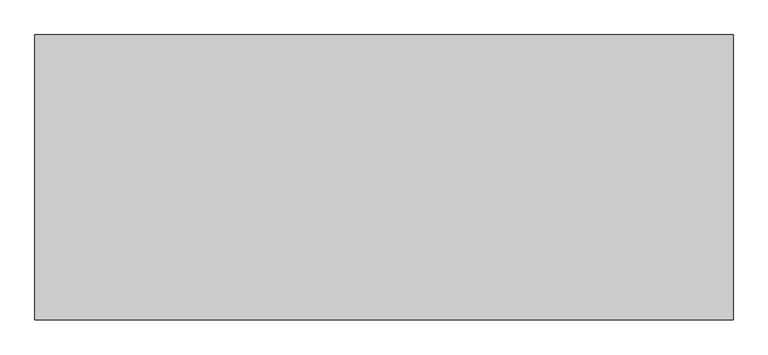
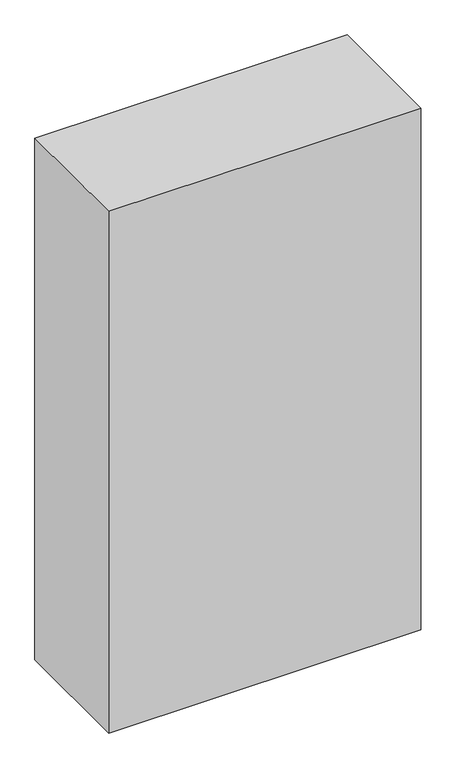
"""IFC4 building model written with IfcOpenShell, lengths in millimetres: proxy geometry."""

from ifc_helpers import new_model, si_unit, frame, origin, place, context, project, spatial, polyline, outline, extrude, source, transform, mapped, element, save


def generic_models_74fafd9d(model_context):
    return source(origin(), model_context, "Body", "SweptSolid", [
        extrude(outline(polyline([(-0.3951687, -335.5), (-1500.3951687, -335.5), (-1500.3951687, 277.5), (-0.3951687, 277.5), (-0.3951687, -335.5)])), frame((0.0, 0.0, -150.0), z_axis=(0.0, 0.0, 1.0), x_axis=(1.0, 0.0, 0.0)), (0.0, 0.0, 1.0), 2650.0),
    ])


if __name__ == "__main__":
    model = new_model("IFC4")
    model_context = context("Model", 3, world=origin())
    ifc_project = project(units=[si_unit("LENGTHUNIT", "METRE", prefix="MILLI")], contexts=[model_context])
    site = spatial("IfcSite", under=ifc_project)
    building = spatial("IfcBuilding", under=site)
    placement = place(None, origin())
    generic_models_shape = generic_models_74fafd9d(model_context)
    element("IfcBuildingElementProxy", 1, Name="Generic Models", at=placement, inside=building, context=model_context, shape_type="MappedRepresentation", body=[
        mapped(generic_models_shape, transform((0.0, 0.0, 0.0), x_axis=(1.0, 0.0, 0.0), y_axis=(0.0, 1.0, 0.0), z_axis=(0.0, 0.0, 1.0))),
    ])
    save(model, "model.ifc")
